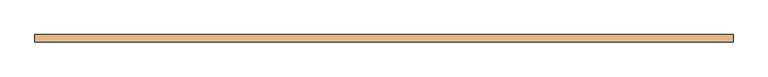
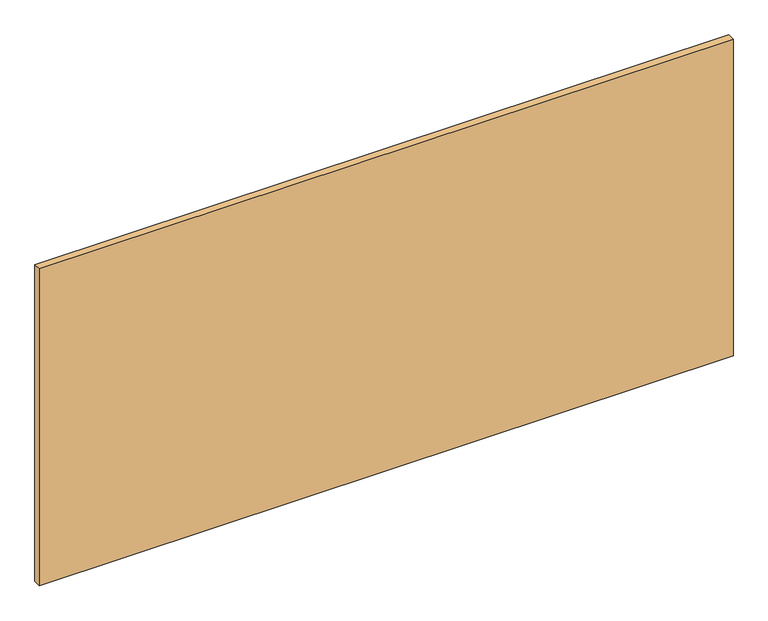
"""IFC4 building model written with IfcOpenShell, lengths in millimetres: door geometry, Puerta elevada articulada : Puerta Plagadiza 4.87x2.35 m."""

from ifc_helpers import new_model, si_unit, origin, origin_with_axes, place, context, project, spatial, polyline, outline, extrude, source, transform, mapped, element, save


def door_d9201a20(model_context):
    return source(origin(), model_context, "Body", "SweptSolid", [
        extrude(outline(polyline([(2435.0, -75.0), (2435.0, -126.0), (-2435.0, -126.0), (-2435.0, -75.0), (2435.0, -75.0)])), origin_with_axes(), (0.0, 0.0, 1.0), 2350.0),
    ])


if __name__ == "__main__":
    model = new_model("IFC4")
    model_context = context("Model", 3, world=origin())
    ifc_project = project(units=[si_unit("LENGTHUNIT", "METRE", prefix="MILLI")], contexts=[model_context])
    site = spatial("IfcSite", under=ifc_project)
    building = spatial("IfcBuilding", under=site)
    placement = place(None, origin())
    door_shape = door_d9201a20(model_context)
    element("IfcDoor", 1, ObjectType="Puerta elevada articulada : Puerta Plagadiza 4.87x2.35 m", at=placement, inside=building, context=model_context, shape_type="MappedRepresentation", body=[
        mapped(door_shape, transform((0.0, 0.0, 0.0), x_axis=(1.0, 0.0, 0.0), y_axis=(0.0, 1.0, 0.0), z_axis=(0.0, 0.0, 1.0))),
    ])
    save(model, "model.ifc")
